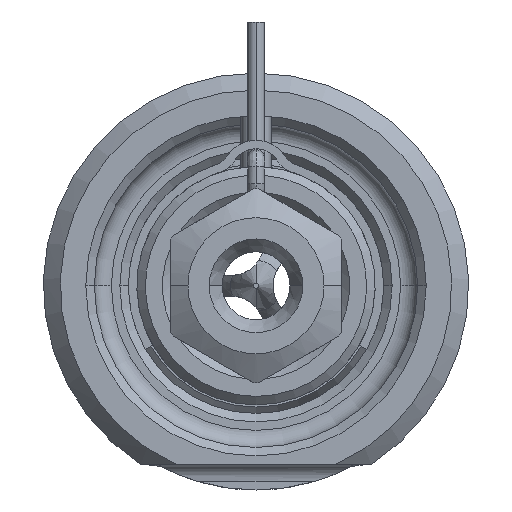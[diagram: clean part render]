
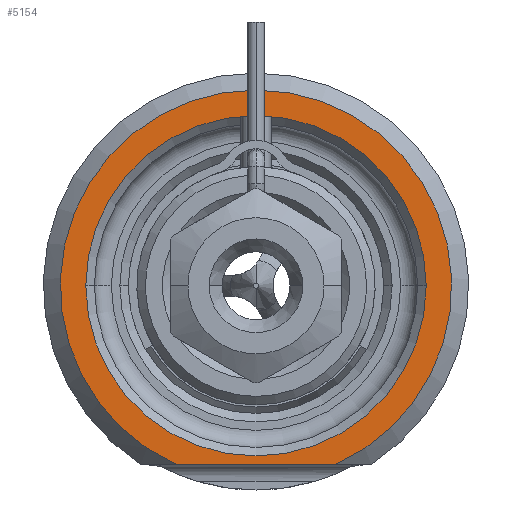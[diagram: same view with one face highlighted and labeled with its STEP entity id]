
A CAD part, front view. The second image highlights one B-rep face of the part: STEP entity #5154.
In plain terms, the highlighted planar face has unit normal (0, -1, 0).
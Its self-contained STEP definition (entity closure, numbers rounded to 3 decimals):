
#1324=CARTESIAN_POINT('',(0.,0.,0.));
#1325=DIRECTION('',(0.,-1.,0.));
#1326=DIRECTION('',(0.408,0.,-0.913));
#1327=AXIS2_PLACEMENT_3D('',#1324,#1325,#1326);
#1348=DIRECTION('',(1.,0.,0.));
#1349=VECTOR('',#1348,9.381);
#1350=CARTESIAN_POINT('',(-4.69,0.,-10.5));
#1351=LINE('',#1350,#1349);
#1352=CARTESIAN_POINT('',(0.,0.,0.));
#1353=DIRECTION('',(0.,1.,0.));
#1354=DIRECTION('',(-1.,0.,0.));
#1355=AXIS2_PLACEMENT_3D('',#1352,#1353,#1354);
#1357=CARTESIAN_POINT('',(0.,0.,0.));
#1358=DIRECTION('',(0.,1.,0.));
#1359=DIRECTION('',(1.,0.,0.));
#1360=AXIS2_PLACEMENT_3D('',#1357,#1358,#1359);
#3245=CARTESIAN_POINT('',(-10.,0.,0.));
#3246=CARTESIAN_POINT('',(10.,0.,0.));
#3247=VERTEX_POINT('',#3245);
#3248=VERTEX_POINT('',#3246);
#3303=CARTESIAN_POINT('',(-4.69,0.,-10.5));
#3304=CARTESIAN_POINT('',(4.69,0.,-10.5));
#3305=VERTEX_POINT('',#3303);
#3306=VERTEX_POINT('',#3304);
#5139=CARTESIAN_POINT('',(0.,0.,0.));
#5140=DIRECTION('',(0.,-1.,0.));
#5141=DIRECTION('',(1.,0.,0.));
#5142=AXIS2_PLACEMENT_3D('',#5139,#5140,#5141);
#5143=PLANE('',#5142);
#5144=ORIENTED_EDGE('',*,*,#5074,.F.);
#5145=ORIENTED_EDGE('',*,*,#5131,.F.);
#5146=EDGE_LOOP('',(#5144,#5145));
#5147=FACE_OUTER_BOUND('',#5146,.F.);
#5149=ORIENTED_EDGE('',*,*,#5148,.F.);
#5151=ORIENTED_EDGE('',*,*,#5150,.F.);
#5152=EDGE_LOOP('',(#5149,#5151));
#5153=FACE_BOUND('',#5152,.F.);
#5154=ADVANCED_FACE('',(#5147,#5153),#5143,.T.);
#1328=CIRCLE('',#1327,11.5);
#1356=CIRCLE('',#1355,10.);
#1361=CIRCLE('',#1360,10.);
#5074=EDGE_CURVE('',#3305,#3306,#1351,.T.);
#5131=EDGE_CURVE('',#3306,#3305,#1328,.T.);
#5148=EDGE_CURVE('',#3247,#3248,#1356,.T.);
#5150=EDGE_CURVE('',#3248,#3247,#1361,.T.);
